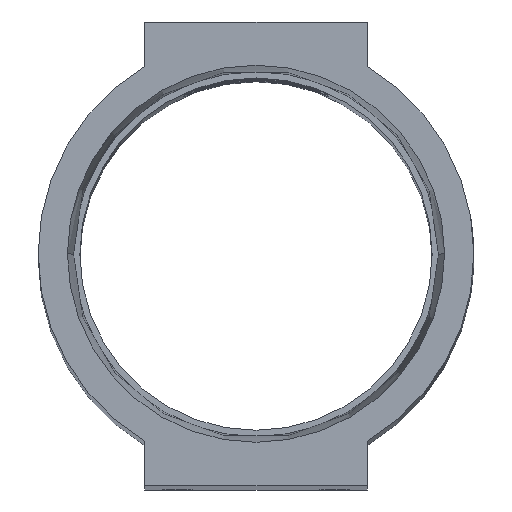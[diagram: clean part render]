
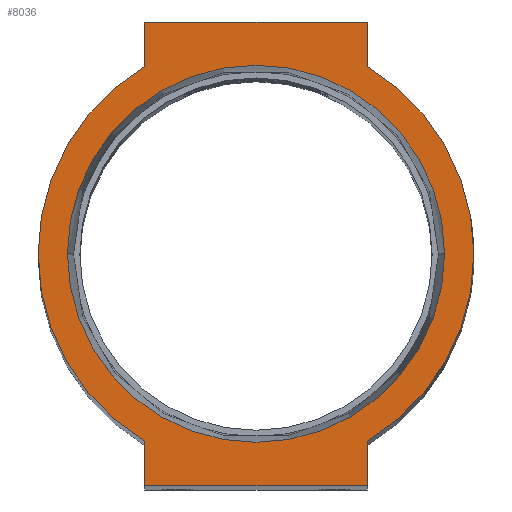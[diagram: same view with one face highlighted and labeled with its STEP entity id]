
A CAD part, top view. The second image highlights one B-rep face of the part: STEP entity #8036.
In plain terms, the highlighted planar face has unit normal (0, 0, 1).
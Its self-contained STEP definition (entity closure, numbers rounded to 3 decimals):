
#159 = DIRECTION ( 'NONE',  ( 1., 0., 0. ) ) ;
#470 = EDGE_CURVE ( 'NONE', #5475, #10772, #2330, .T. ) ;
#600 = CARTESIAN_POINT ( 'NONE',  ( 20.34, 0., 0. ) ) ;
#640 = ORIENTED_EDGE ( 'NONE', *, *, #5309, .T. ) ;
#976 = LINE ( 'NONE', #1808, #4333 ) ;
#1219 = DIRECTION ( 'NONE',  ( 1., 0., 0. ) ) ;
#1409 = CARTESIAN_POINT ( 'NONE',  ( 12., 25., 0. ) ) ;
#1602 = ORIENTED_EDGE ( 'NONE', *, *, #5503, .T. ) ;
#1808 = CARTESIAN_POINT ( 'NONE',  ( 12., -25., 0. ) ) ;
#1870 = DIRECTION ( 'NONE',  ( 0., -1., 0. ) ) ;
#1917 = VERTEX_POINT ( 'NONE', #10605 ) ;
#1942 = CARTESIAN_POINT ( 'NONE',  ( 23.5, 0., 0. ) ) ;
#2163 = VERTEX_POINT ( 'NONE', #11488 ) ;
#2315 = DIRECTION ( 'NONE',  ( 0., 1., 0. ) ) ;
#2330 = LINE ( 'NONE', #2402, #9743 ) ;
#2402 = CARTESIAN_POINT ( 'NONE',  ( -12., 25., 0. ) ) ;
#2698 = CARTESIAN_POINT ( 'NONE',  ( 0., 0., 0. ) ) ;
#2851 = EDGE_CURVE ( 'NONE', #3610, #5567, #10365, .T. ) ;
#2893 = DIRECTION ( 'NONE',  ( 0., 1., 0. ) ) ;
#2919 = EDGE_CURVE ( 'NONE', #9855, #5475, #11162, .T. ) ;
#2958 = AXIS2_PLACEMENT_3D ( 'NONE', #6006, #3197, #3125 ) ;
#3004 = ORIENTED_EDGE ( 'NONE', *, *, #12755, .T. ) ;
#3125 = DIRECTION ( 'NONE',  ( 1., 0., 0. ) ) ;
#3197 = DIRECTION ( 'NONE',  ( 0., 0., 1. ) ) ;
#3220 = LINE ( 'NONE', #6151, #9362 ) ;
#3314 = EDGE_CURVE ( 'NONE', #6583, #2163, #3220, .T. ) ;
#3592 = ORIENTED_EDGE ( 'NONE', *, *, #11987, .T. ) ;
#3610 = VERTEX_POINT ( 'NONE', #6590 ) ;
#3845 = LINE ( 'NONE', #7759, #9407 ) ;
#4042 = AXIS2_PLACEMENT_3D ( 'NONE', #7382, #10406, #11322 ) ;
#4110 = ORIENTED_EDGE ( 'NONE', *, *, #6457, .F. ) ;
#4332 = ORIENTED_EDGE ( 'NONE', *, *, #470, .T. ) ;
#4333 = VECTOR ( 'NONE', #2893, 1000. ) ;
#4449 = CARTESIAN_POINT ( 'NONE',  ( -12., 25., 0. ) ) ;
#4625 = CARTESIAN_POINT ( 'NONE',  ( -12., 20.205, 0. ) ) ;
#4694 = CARTESIAN_POINT ( 'NONE',  ( 12., 25., 0. ) ) ;
#4754 = EDGE_CURVE ( 'NONE', #1917, #5659, #10810, .T. ) ;
#4961 = DIRECTION ( 'NONE',  ( 1., 0., 0. ) ) ;
#5097 = EDGE_CURVE ( 'NONE', #10772, #5416, #7403, .T. ) ;
#5228 = AXIS2_PLACEMENT_3D ( 'NONE', #6162, #11999, #1219 ) ;
#5306 = CIRCLE ( 'NONE', #12516, 20.34 ) ;
#5309 = EDGE_CURVE ( 'NONE', #5416, #12371, #9599, .T. ) ;
#5416 = VERTEX_POINT ( 'NONE', #4625 ) ;
#5475 = VERTEX_POINT ( 'NONE', #4694 ) ;
#5503 = EDGE_CURVE ( 'NONE', #12371, #6583, #3845, .T. ) ;
#5567 = VERTEX_POINT ( 'NONE', #1942 ) ;
#5659 = VERTEX_POINT ( 'NONE', #600 ) ;
#6006 = CARTESIAN_POINT ( 'NONE',  ( 0., 0., 0. ) ) ;
#6151 = CARTESIAN_POINT ( 'NONE',  ( -12., -25., 0. ) ) ;
#6162 = CARTESIAN_POINT ( 'NONE',  ( 0., 0., 0. ) ) ;
#6358 = EDGE_LOOP ( 'NONE', ( #12211, #4332, #10937, #640, #1602, #6642, #3004, #7152, #3592 ) ) ;
#6366 = CARTESIAN_POINT ( 'NONE',  ( -12., -20.205, 0. ) ) ;
#6378 = CIRCLE ( 'NONE', #11915, 23.5 ) ;
#6380 = ORIENTED_EDGE ( 'NONE', *, *, #4754, .F. ) ;
#6457 = EDGE_CURVE ( 'NONE', #5659, #1917, #5306, .T. ) ;
#6583 = VERTEX_POINT ( 'NONE', #7871 ) ;
#6590 = CARTESIAN_POINT ( 'NONE',  ( 12., -20.205, 0. ) ) ;
#6642 = ORIENTED_EDGE ( 'NONE', *, *, #3314, .T. ) ;
#6943 = CARTESIAN_POINT ( 'NONE',  ( 0., 0., 0. ) ) ;
#7152 = ORIENTED_EDGE ( 'NONE', *, *, #2851, .T. ) ;
#7382 = CARTESIAN_POINT ( 'NONE',  ( 0., 0., 0. ) ) ;
#7403 = LINE ( 'NONE', #4449, #8964 ) ;
#7623 = DIRECTION ( 'NONE',  ( 0., 0., 1. ) ) ;
#7713 = DIRECTION ( 'NONE',  ( 0., 0., 1. ) ) ;
#7759 = CARTESIAN_POINT ( 'NONE',  ( -12., -25., 0. ) ) ;
#7871 = CARTESIAN_POINT ( 'NONE',  ( -12., -25., 0. ) ) ;
#8036 = ADVANCED_FACE ( 'NONE', ( #10936, #9913 ), #11963, .T. ) ;
#8111 = AXIS2_PLACEMENT_3D ( 'NONE', #6943, #8925, #159 ) ;
#8314 = VECTOR ( 'NONE', #2315, 1000. ) ;
#8355 = DIRECTION ( 'NONE',  ( 0., -1., 0. ) ) ;
#8595 = CARTESIAN_POINT ( 'NONE',  ( -12., 25., 0. ) ) ;
#8610 = CARTESIAN_POINT ( 'NONE',  ( 12., 20.205, 0. ) ) ;
#8925 = DIRECTION ( 'NONE',  ( 0., 0., 1. ) ) ;
#8964 = VECTOR ( 'NONE', #8355, 1000. ) ;
#9083 = CARTESIAN_POINT ( 'NONE',  ( 0., 0., 0. ) ) ;
#9362 = VECTOR ( 'NONE', #10175, 1000. ) ;
#9407 = VECTOR ( 'NONE', #1870, 1000. ) ;
#9599 = CIRCLE ( 'NONE', #4042, 23.5 ) ;
#9743 = VECTOR ( 'NONE', #11057, 1000. ) ;
#9855 = VERTEX_POINT ( 'NONE', #8610 ) ;
#9913 = FACE_OUTER_BOUND ( 'NONE', #6358, .T. ) ;
#10175 = DIRECTION ( 'NONE',  ( 1., 0., 0. ) ) ;
#10365 = CIRCLE ( 'NONE', #5228, 23.5 ) ;
#10406 = DIRECTION ( 'NONE',  ( 0., 0., 1. ) ) ;
#10586 = DIRECTION ( 'NONE',  ( 1., 0., 0. ) ) ;
#10605 = CARTESIAN_POINT ( 'NONE',  ( -20.34, 0., 0. ) ) ;
#10772 = VERTEX_POINT ( 'NONE', #8595 ) ;
#10810 = CIRCLE ( 'NONE', #8111, 20.34 ) ;
#10936 = FACE_BOUND ( 'NONE', #12368, .T. ) ;
#10937 = ORIENTED_EDGE ( 'NONE', *, *, #5097, .T. ) ;
#11057 = DIRECTION ( 'NONE',  ( -1., 0., 0. ) ) ;
#11162 = LINE ( 'NONE', #1409, #8314 ) ;
#11322 = DIRECTION ( 'NONE',  ( 1., 0., 0. ) ) ;
#11488 = CARTESIAN_POINT ( 'NONE',  ( 12., -25., 0. ) ) ;
#11915 = AXIS2_PLACEMENT_3D ( 'NONE', #9083, #7713, #4961 ) ;
#11963 = PLANE ( 'NONE',  #2958 ) ;
#11987 = EDGE_CURVE ( 'NONE', #5567, #9855, #6378, .T. ) ;
#11999 = DIRECTION ( 'NONE',  ( 0., 0., 1. ) ) ;
#12211 = ORIENTED_EDGE ( 'NONE', *, *, #2919, .T. ) ;
#12368 = EDGE_LOOP ( 'NONE', ( #4110, #6380 ) ) ;
#12371 = VERTEX_POINT ( 'NONE', #6366 ) ;
#12516 = AXIS2_PLACEMENT_3D ( 'NONE', #2698, #7623, #10586 ) ;
#12755 = EDGE_CURVE ( 'NONE', #2163, #3610, #976, .T. ) ;
